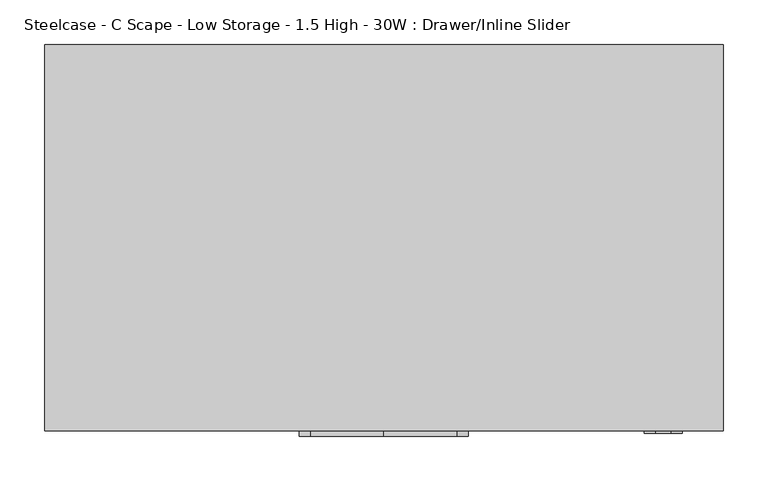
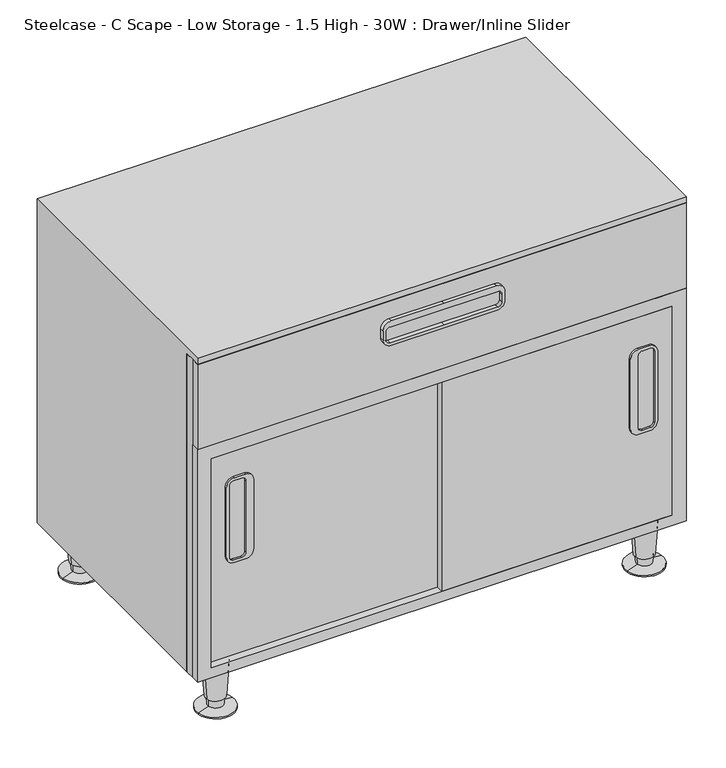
"""IFC4 building model written with IfcOpenShell, lengths in millimetres: furniture geometry, Steelcase - C Scape - Low Storage - 1.5 High - 30W : Drawer/Inline Slider."""

from ifc_helpers import new_model, si_unit, point, frame, frame_2d, origin, place, context, project, spatial, polyline, circle_curve, trimmed, segment, composite_curve, outline, extrude, faceted_brep, source, transform, mapped, element, save
from ifc_brep_helpers import plane_surface, cylinder_surface, revolved_surface, advanced_brep


def steelcase_c_scape_low_storage_1_5_high_30w_drawer_inline_58b6e77f(model_context):
    return source(origin(), model_context, "Body", "SolidModel", [
        extrude(outline(composite_curve([segment(trimmed(circle_curve(frame_2d((373.5963095, 685.0136914)), 12.7015503), [point((386.2978598, 685.0136914))], [point((373.5963095, 672.3121411))], False, "CARTESIAN"), True, "CONTINUOUS"), segment(polyline([(373.5963095, 672.3121411), (259.2993979, 672.3121411)]), True, "CONTINUOUS"), segment(trimmed(circle_curve(frame_2d((259.2993979, 685.0136914)), 12.7015503), [point((259.2993979, 672.3121411))], [point((246.5978477, 685.0136914))], False, "CARTESIAN"), True, "CONTINUOUS"), segment(polyline([(246.5978477, 685.0136914), (246.5978477, 701.902577)]), True, "CONTINUOUS"), segment(trimmed(circle_curve(frame_2d((259.2978537, 701.902577)), 12.7000061), [point((246.5978477, 701.902577))], [point((259.2978537, 714.602583))], False, "CARTESIAN"), True, "CONTINUOUS"), segment(polyline([(259.2978537, 714.602583), (373.6009603, 714.602583)]), True, "CONTINUOUS"), segment(trimmed(circle_curve(frame_2d((373.6009603, 701.9056836)), 12.6968994), [point((373.6009603, 714.602583))], [point((386.2978598, 701.9056836))], False, "CARTESIAN"), True, "CONTINUOUS"), segment(polyline([(386.2978598, 701.9056836), (386.2978598, 685.0136914)]), True, "CONTINUOUS")], self_intersect=False), holes=[composite_curve([segment(trimmed(circle_curve(frame_2d((257.7496016, 703.426521)), 6.3531006), [point((257.7496016, 709.7796216))], [point((251.396501, 703.426521))], True, "CARTESIAN"), True, "CONTINUOUS"), segment(polyline([(251.396501, 703.426521), (251.396501, 690.7296216)]), True, "CONTINUOUS"), segment(trimmed(circle_curve(frame_2d((257.7496016, 690.7296216)), 6.3531006), [point((251.396501, 690.7296216))], [point((257.7496016, 684.376521))], True, "CARTESIAN"), True, "CONTINUOUS"), segment(polyline([(257.7496016, 684.376521), (375.0913854, 684.376521)]), True, "CONTINUOUS"), segment(trimmed(circle_curve(frame_2d((375.0913854, 690.7296216)), 6.3531006), [point((375.0913854, 684.376521))], [point((381.444486, 690.7296216))], True, "CARTESIAN"), True, "CONTINUOUS"), segment(polyline([(381.444486, 690.7296216), (381.444486, 703.426521)]), True, "CONTINUOUS"), segment(trimmed(circle_curve(frame_2d((375.0913854, 703.426521)), 6.3531006), [point((381.444486, 703.426521))], [point((375.0913854, 709.7796216))], True, "CARTESIAN"), True, "CONTINUOUS"), segment(polyline([(375.0913854, 709.7796216), (257.7496016, 709.7796216)]), True, "CONTINUOUS")], self_intersect=False)]), frame((0.0, -436.1182586, 0.0), z_axis=(0.0, 1.0, 0.0), x_axis=(0.0, 0.0, 1.0)), (0.0, 0.0, 1.0), 3.0482586),
        extrude(outline(composite_curve([segment(polyline([(386.2978598, 79.2484961), (386.2978598, 62.3565039)]), True, "CONTINUOUS"), segment(trimmed(circle_curve(frame_2d((373.6009603, 62.3565039)), 12.6968994), [point((386.2978598, 62.3565039))], [point((373.6009603, 49.6596045))], False, "CARTESIAN"), True, "CONTINUOUS"), segment(polyline([(373.6009603, 49.6596045), (259.2978537, 49.6596045)]), True, "CONTINUOUS"), segment(trimmed(circle_curve(frame_2d((259.2978537, 62.3596105)), 12.7000061), [point((259.2978537, 49.6596045))], [point((246.5978477, 62.3596105))], False, "CARTESIAN"), True, "CONTINUOUS"), segment(polyline([(246.5978477, 62.3596105), (246.5978477, 79.2484961)]), True, "CONTINUOUS"), segment(trimmed(circle_curve(frame_2d((259.2993979, 79.2484961)), 12.7015503), [point((246.5978477, 79.2484961))], [point((259.2993979, 91.9500464))], False, "CARTESIAN"), True, "CONTINUOUS"), segment(polyline([(259.2993979, 91.9500464), (373.5963095, 91.9500464)]), True, "CONTINUOUS"), segment(trimmed(circle_curve(frame_2d((373.5963095, 79.2484961)), 12.7015503), [point((373.5963095, 91.9500464))], [point((386.2978598, 79.2484961))], False, "CARTESIAN"), True, "CONTINUOUS")], self_intersect=False), holes=[composite_curve([segment(polyline([(257.7496016, 54.4825659), (375.0913854, 54.4825659)]), True, "CONTINUOUS"), segment(trimmed(circle_curve(frame_2d((375.0913854, 60.8356665)), 6.3531006), [point((375.0913854, 54.4825659))], [point((381.444486, 60.8356665))], True, "CARTESIAN"), True, "CONTINUOUS"), segment(polyline([(381.444486, 60.8356665), (381.444486, 73.5325659)]), True, "CONTINUOUS"), segment(trimmed(circle_curve(frame_2d((375.0913854, 73.5325659)), 6.3531006), [point((381.444486, 73.5325659))], [point((375.0913854, 79.8856665))], True, "CARTESIAN"), True, "CONTINUOUS"), segment(polyline([(375.0913854, 79.8856665), (257.7496016, 79.8856665)]), True, "CONTINUOUS"), segment(trimmed(circle_curve(frame_2d((257.7496016, 73.5325659)), 6.3531006), [point((257.7496016, 79.8856665))], [point((251.396501, 73.5325659))], True, "CARTESIAN"), True, "CONTINUOUS"), segment(polyline([(251.396501, 73.5325659), (251.396501, 60.8356665)]), True, "CONTINUOUS"), segment(trimmed(circle_curve(frame_2d((257.7496016, 60.8356665)), 6.3531006), [point((251.396501, 60.8356665))], [point((257.7496016, 54.4825659))], True, "CARTESIAN"), True, "CONTINUOUS")], self_intersect=False)]), frame((0.0, -424.7213475, 0.0), z_axis=(0.0, 1.0, 0.0), x_axis=(0.0, 0.0, 1.0)), (0.0, 0.0, 1.0), 3.0770066),
        extrude(outline(polyline([(458.7875121, 0.0), (76.2, 0.0), (76.2, 760.73), (458.7875121, 760.73), (458.7875121, 0.0)]), holes=[polyline([(436.8419, 21.3382324), (436.8419, 738.7617285), (92.7100024, 738.7617285), (92.7100024, 21.3382324), (436.8419, 21.3382324)])]), frame((0.0, -433.07, 0.0), z_axis=(0.0, 1.0, 0.0), x_axis=(0.0, 0.0, 1.0)), (0.0, 0.0, 1.0), 13.7159457),
        extrude(outline(polyline([(599.4499291, 0.0), (76.2, 0.0), (76.2, 760.73), (599.4499291, 760.73), (599.4499291, 320.0585382), (599.4499291, 0.0)]), holes=[polyline([(458.7875121, 21.3382324), (582.9399291, 21.3382324), (582.9399291, 738.7617285), (458.7875121, 738.7617285), (458.7875121, 21.3382324)]), polyline([(436.841904, 21.3256814), (436.841904, 738.7617285), (92.7100024, 738.7617285), (92.7100024, 21.3256814), (436.841904, 21.3256814)])]), frame((0.0, -419.3540543, 0.0), z_axis=(0.0, 1.0, 0.0), x_axis=(0.0, 0.0, 1.0)), (0.0, 0.0, 1.0), 14.9860039),
        extrude(outline(composite_curve([segment(trimmed(circle_curve(frame_2d((558.1749291, 297.8147442)), 12.7), [point((570.8749291, 297.8147442))], [point((558.1749291, 285.1147442))], False, "CARTESIAN"), True, "CONTINUOUS"), segment(polyline([(558.1749291, 285.1147442), (543.5699582, 285.1147442)]), True, "CONTINUOUS"), segment(trimmed(circle_curve(frame_2d((543.5699582, 297.8147442)), 12.7), [point((543.5699582, 285.1147442))], [point((530.8699582, 297.8147442))], False, "CARTESIAN"), True, "CONTINUOUS"), segment(polyline([(530.8699582, 297.8147442), (530.8699582, 380.0475), (530.8699582, 462.2802558)]), True, "CONTINUOUS"), segment(trimmed(circle_curve(frame_2d((543.5699582, 462.2802558)), 12.7), [point((530.8699582, 462.2802558))], [point((543.5699582, 474.9802558))], False, "CARTESIAN"), True, "CONTINUOUS"), segment(polyline([(543.5699582, 474.9802558), (558.1749291, 474.9802558)]), True, "CONTINUOUS"), segment(trimmed(circle_curve(frame_2d((558.1749291, 462.2802558)), 12.7), [point((558.1749291, 474.9802558))], [point((570.8749291, 462.2802558))], False, "CARTESIAN"), True, "CONTINUOUS"), segment(polyline([(570.8749291, 462.2802558), (570.8749291, 380.0475), (570.8749291, 297.8147442)]), True, "CONTINUOUS")], self_intersect=False), holes=[composite_curve([segment(trimmed(circle_curve(frame_2d((554.7459476, 296.2923565)), 6.35), [point((554.7459476, 289.9423565))], [point((561.0959476, 296.2923565))], True, "CARTESIAN"), True, "CONTINUOUS"), segment(polyline([(561.0959476, 296.2923565), (561.0959476, 380.0475), (561.0959476, 463.8026435)]), True, "CONTINUOUS"), segment(trimmed(circle_curve(frame_2d((554.7459476, 463.8026435)), 6.35), [point((561.0959476, 463.8026435))], [point((554.7459476, 470.1526435))], True, "CARTESIAN"), True, "CONTINUOUS"), segment(polyline([(554.7459476, 470.1526435), (542.0459354, 470.1526435)]), True, "CONTINUOUS"), segment(trimmed(circle_curve(frame_2d((542.0459354, 463.8026435)), 6.35), [point((542.0459354, 470.1526435))], [point((535.6959354, 463.8026435))], True, "CARTESIAN"), True, "CONTINUOUS"), segment(polyline([(535.6959354, 463.8026435), (535.6959354, 380.0475), (535.6959354, 296.2923565)]), True, "CONTINUOUS"), segment(trimmed(circle_curve(frame_2d((542.0459354, 296.2923565)), 6.35), [point((535.6959354, 296.2923565))], [point((542.0459354, 289.9423565))], True, "CARTESIAN"), True, "CONTINUOUS"), segment(polyline([(542.0459354, 289.9423565), (554.7459476, 289.9423565)]), True, "CONTINUOUS")], self_intersect=False)]), frame((0.0, -439.42, 0.0), z_axis=(0.0, 1.0, 0.0), x_axis=(0.0, 0.0, 1.0)), (0.0, 0.0, 1.0), 6.35),
        advanced_brep(
        [(65.5422821, -397.1702762, 76.2), (27.8805432, -402.9325174, 76.2), (46.7114126, -400.0513968, 76.2), (61.5919341, -397.774679, 19.05), (31.8308912, -402.3281146, 19.05), (59.1623471, -398.1464055, 19.05), (34.2604781, -401.9563882, 19.05), (58.4735776, -398.2517871, 5.7545598), (34.9492476, -401.8510065, 5.7545598), (75.8224611, -395.5974102, 2.5119506), (17.6003641, -404.5053834, 2.5119506), (75.8224611, -395.5974102, 0.0), (17.6003641, -404.5053834, 0.0), (46.7114126, -400.0513968, 0.0)],
        [
            (0, 1, circle_curve(frame((46.7114126, -400.0513968, 76.2), z_axis=(0.0, 0.0, 1.0), x_axis=(0.0, -1.0, 0.0)), 19.05)),
            (1, 2),
            (2, 0),
            (1, 0, circle_curve(frame((46.7114126, -400.0513968, 76.2), z_axis=(0.0, 0.0, 1.0), x_axis=(0.0, -1.0, 0.0)), 19.05)),
            (3, 4, circle_curve(frame((46.7114126, -400.0513968, 19.05), z_axis=(0.0, 0.0, 1.0), x_axis=(0.0, -1.0, 0.0)), 15.0536827)),
            (4, 1),
            (0, 3),
            (4, 3, circle_curve(frame((46.7114126, -400.0513968, 19.05), z_axis=(0.0, 0.0, 1.0), x_axis=(0.0, -1.0, 0.0)), 15.0536827)),
            (5, 6, circle_curve(frame((46.7114126, -400.0513968, 19.05), z_axis=(0.0, 0.0, 1.0), x_axis=(0.0, -1.0, 0.0)), 12.5958232)),
            (6, 4),
            (3, 5),
            (6, 5, circle_curve(frame((46.7114126, -400.0513968, 19.05), z_axis=(0.0, 0.0, 1.0), x_axis=(0.0, -1.0, 0.0)), 12.5958232)),
            (7, 8, circle_curve(frame((46.7114126, -400.0513968, 5.7545598), z_axis=(0.0, 0.0, 1.0), x_axis=(0.0, -1.0, 0.0)), 11.8990387)),
            (8, 6),
            (5, 7),
            (8, 7, circle_curve(frame((46.7114126, -400.0513968, 5.7545598), z_axis=(0.0, 0.0, 1.0), x_axis=(0.0, -1.0, 0.0)), 11.8990387)),
            (9, 10, circle_curve(frame((46.7114126, -400.0513968, 2.5119506), z_axis=(0.0, 0.0, 1.0), x_axis=(0.0, -1.0, 0.0)), 29.4498071)),
            (10, 8),
            (7, 9),
            (10, 9, circle_curve(frame((46.7114126, -400.0513968, 2.5119506), z_axis=(0.0, 0.0, 1.0), x_axis=(0.0, -1.0, 0.0)), 29.4498071)),
            (11, 12, circle_curve(frame((46.7114126, -400.0513968, 0.0), z_axis=(0.0, 0.0, 1.0), x_axis=(0.0, -1.0, 0.0)), 29.4498071)),
            (12, 10),
            (9, 11),
            (12, 11, circle_curve(frame((46.7114126, -400.0513968, 0.0), z_axis=(0.0, 0.0, 1.0), x_axis=(0.0, -1.0, 0.0)), 29.4498071)),
            (13, 12),
            (11, 13),
        ],
        [
            plane_surface(frame((46.7114126, -400.0513968, 76.2), z_axis=(0.0, 0.0, 1.0), x_axis=(0.0, -1.0, 0.0))),
            revolved_surface(polyline([(46.7114126, -419.1013968, 76.2), (46.7114126, -415.1050795, 19.05)]), (46.7114126, -400.0513968, 25.4), (0.0, 0.0, -1.0)),
            plane_surface(frame((46.7114126, -400.0513968, 19.05), z_axis=(0.0, 0.0, -1.0), x_axis=(0.0, -1.0, 0.0))),
            revolved_surface(polyline([(46.7114126, -412.64722, 19.05), (46.7114126, -411.9504355, 5.7545598)]), (46.7114126, -400.0513968, 25.4), (0.0, 0.0, -1.0)),
            revolved_surface(polyline([(46.7114126, -411.9504355, 5.7545598), (46.7114126, -429.5012039, 2.5119506)]), (46.7114126, -400.0513968, 25.4), (0.0, 0.0, -1.0)),
            cylinder_surface(frame((46.7114126, -400.0513968, 25.4), z_axis=(0.0, 0.0, -1.0), x_axis=(0.0, -1.0, 0.0)), 29.4498071),
            plane_surface(frame((46.7114126, -400.0513968, 0.0), z_axis=(0.0, 0.0, -1.0), x_axis=(0.0, -1.0, 0.0))),
        ],
        [
            (0, [[1, 2, 3]]),
            (0, [[4, -3, -2]]),
            (1, [[5, 6, -1, 7]]),
            (1, [[8, -7, -4, -6]]),
            (2, [[9, 10, -5, 11]]),
            (2, [[12, -11, -8, -10]]),
            (3, [[13, 14, -9, 15]]),
            (3, [[16, -15, -12, -14]]),
            (4, [[17, 18, -13, 19]]),
            (4, [[20, -19, -16, -18]]),
            (5, [[21, 22, -17, 23]]),
            (5, [[24, -23, -20, -22]]),
            (6, [[25, -21, 26]]),
            (6, [[-26, -24, -25]]),
        ],
    ),
        advanced_brep(
        [(733.4598695, -397.1702762, 76.2), (695.7981305, -402.9325174, 76.2), (714.629, -400.0513968, 76.2), (729.5095214, -397.774679, 19.05), (699.7484786, -402.3281146, 19.05), (727.0799345, -398.1464055, 19.05), (702.1780655, -401.9563882, 19.05), (726.391165, -398.2517871, 5.7545598), (702.866835, -401.8510065, 5.7545598), (743.7400485, -395.5974102, 2.5119506), (685.5179515, -404.5053834, 2.5119506), (743.7400485, -395.5974102, 0.0), (685.5179515, -404.5053834, 0.0), (714.629, -400.0513968, 0.0)],
        [
            (0, 1, circle_curve(frame((714.629, -400.0513968, 76.2), z_axis=(0.0, 0.0, 1.0), x_axis=(0.0, -1.0, 0.0)), 19.05)),
            (1, 2),
            (2, 0),
            (1, 0, circle_curve(frame((714.629, -400.0513968, 76.2), z_axis=(0.0, 0.0, 1.0), x_axis=(0.0, -1.0, 0.0)), 19.05)),
            (3, 4, circle_curve(frame((714.629, -400.0513968, 19.05), z_axis=(0.0, 0.0, 1.0), x_axis=(0.0, -1.0, 0.0)), 15.0536827)),
            (4, 1),
            (0, 3),
            (4, 3, circle_curve(frame((714.629, -400.0513968, 19.05), z_axis=(0.0, 0.0, 1.0), x_axis=(0.0, -1.0, 0.0)), 15.0536827)),
            (5, 6, circle_curve(frame((714.629, -400.0513968, 19.05), z_axis=(0.0, 0.0, 1.0), x_axis=(0.0, -1.0, 0.0)), 12.5958232)),
            (6, 4),
            (3, 5),
            (6, 5, circle_curve(frame((714.629, -400.0513968, 19.05), z_axis=(0.0, 0.0, 1.0), x_axis=(0.0, -1.0, 0.0)), 12.5958232)),
            (7, 8, circle_curve(frame((714.629, -400.0513968, 5.7545598), z_axis=(0.0, 0.0, 1.0), x_axis=(0.0, -1.0, 0.0)), 11.8990387)),
            (8, 6),
            (5, 7),
            (8, 7, circle_curve(frame((714.629, -400.0513968, 5.7545598), z_axis=(0.0, 0.0, 1.0), x_axis=(0.0, -1.0, 0.0)), 11.8990387)),
            (9, 10, circle_curve(frame((714.629, -400.0513968, 2.5119506), z_axis=(0.0, 0.0, 1.0), x_axis=(0.0, -1.0, 0.0)), 29.4498071)),
            (10, 8),
            (7, 9),
            (10, 9, circle_curve(frame((714.629, -400.0513968, 2.5119506), z_axis=(0.0, 0.0, 1.0), x_axis=(0.0, -1.0, 0.0)), 29.4498071)),
            (11, 12, circle_curve(frame((714.629, -400.0513968, 0.0), z_axis=(0.0, 0.0, 1.0), x_axis=(0.0, -1.0, 0.0)), 29.4498071)),
            (12, 10),
            (9, 11),
            (12, 11, circle_curve(frame((714.629, -400.0513968, 0.0), z_axis=(0.0, 0.0, 1.0), x_axis=(0.0, -1.0, 0.0)), 29.4498071)),
            (13, 12),
            (11, 13),
        ],
        [
            plane_surface(frame((714.629, -400.0513968, 76.2), z_axis=(0.0, 0.0, 1.0), x_axis=(0.0, -1.0, 0.0))),
            revolved_surface(polyline([(714.629, -419.1013968, 76.2), (714.629, -415.1050795, 19.05)]), (714.629, -400.0513968, 25.4), (0.0, 0.0, -1.0)),
            plane_surface(frame((714.629, -400.0513968, 19.05), z_axis=(0.0, 0.0, -1.0), x_axis=(0.0, -1.0, 0.0))),
            revolved_surface(polyline([(714.629, -412.64722, 19.05), (714.629, -411.9504355, 5.7545598)]), (714.629, -400.0513968, 25.4), (0.0, 0.0, -1.0)),
            revolved_surface(polyline([(714.629, -411.9504355, 5.7545598), (714.629, -429.5012039, 2.5119506)]), (714.629, -400.0513968, 25.4), (0.0, 0.0, -1.0)),
            cylinder_surface(frame((714.629, -400.0513968, 25.4), z_axis=(0.0, 0.0, -1.0), x_axis=(0.0, -1.0, 0.0)), 29.4498071),
            plane_surface(frame((714.629, -400.0513968, 0.0), z_axis=(0.0, 0.0, -1.0), x_axis=(0.0, -1.0, 0.0))),
        ],
        [
            (0, [[1, 2, 3]]),
            (0, [[4, -3, -2]]),
            (1, [[5, 6, -1, 7]]),
            (1, [[8, -7, -4, -6]]),
            (2, [[9, 10, -5, 11]]),
            (2, [[12, -11, -8, -10]]),
            (3, [[13, 14, -9, 15]]),
            (3, [[16, -15, -12, -14]]),
            (4, [[17, 18, -13, 19]]),
            (4, [[20, -19, -16, -18]]),
            (5, [[21, 22, -17, 23]]),
            (5, [[24, -23, -20, -22]]),
            (6, [[25, -21, 26]]),
            (6, [[-26, -24, -25]]),
        ],
    ),
        advanced_brep(
        [(733.4598695, -31.5218435, 76.2), (695.7981305, -37.2840847, 76.2), (714.629, -34.4029641, 76.2), (729.5095214, -32.1262463, 19.05), (699.7484786, -36.6796819, 19.05), (727.0799345, -32.4979728, 19.05), (702.1780655, -36.3079555, 19.05), (726.391165, -32.6033544, 5.7545598), (702.866835, -36.2025738, 5.7545598), (743.7400485, -29.9489775, 2.5119506), (685.5179515, -38.8569507, 2.5119506), (743.7400485, -29.9489775, 0.0), (685.5179515, -38.8569507, 0.0), (714.629, -34.4029641, 0.0)],
        [
            (0, 1, circle_curve(frame((714.629, -34.4029641, 76.2), z_axis=(0.0, 0.0, 1.0), x_axis=(0.0, -1.0, 0.0)), 19.05)),
            (1, 2),
            (2, 0),
            (1, 0, circle_curve(frame((714.629, -34.4029641, 76.2), z_axis=(0.0, 0.0, 1.0), x_axis=(0.0, -1.0, 0.0)), 19.05)),
            (3, 4, circle_curve(frame((714.629, -34.4029641, 19.05), z_axis=(0.0, 0.0, 1.0), x_axis=(0.0, -1.0, 0.0)), 15.0536827)),
            (4, 1),
            (0, 3),
            (4, 3, circle_curve(frame((714.629, -34.4029641, 19.05), z_axis=(0.0, 0.0, 1.0), x_axis=(0.0, -1.0, 0.0)), 15.0536827)),
            (5, 6, circle_curve(frame((714.629, -34.4029641, 19.05), z_axis=(0.0, 0.0, 1.0), x_axis=(0.0, -1.0, 0.0)), 12.5958232)),
            (6, 4),
            (3, 5),
            (6, 5, circle_curve(frame((714.629, -34.4029641, 19.05), z_axis=(0.0, 0.0, 1.0), x_axis=(0.0, -1.0, 0.0)), 12.5958232)),
            (7, 8, circle_curve(frame((714.629, -34.4029641, 5.7545598), z_axis=(0.0, 0.0, 1.0), x_axis=(0.0, -1.0, 0.0)), 11.8990387)),
            (8, 6),
            (5, 7),
            (8, 7, circle_curve(frame((714.629, -34.4029641, 5.7545598), z_axis=(0.0, 0.0, 1.0), x_axis=(0.0, -1.0, 0.0)), 11.8990387)),
            (9, 10, circle_curve(frame((714.629, -34.4029641, 2.5119506), z_axis=(0.0, 0.0, 1.0), x_axis=(0.0, -1.0, 0.0)), 29.4498071)),
            (10, 8),
            (7, 9),
            (10, 9, circle_curve(frame((714.629, -34.4029641, 2.5119506), z_axis=(0.0, 0.0, 1.0), x_axis=(0.0, -1.0, 0.0)), 29.4498071)),
            (11, 12, circle_curve(frame((714.629, -34.4029641, 0.0), z_axis=(0.0, 0.0, 1.0), x_axis=(0.0, -1.0, 0.0)), 29.4498071)),
            (12, 10),
            (9, 11),
            (12, 11, circle_curve(frame((714.629, -34.4029641, 0.0), z_axis=(0.0, 0.0, 1.0), x_axis=(0.0, -1.0, 0.0)), 29.4498071)),
            (13, 12),
            (11, 13),
        ],
        [
            plane_surface(frame((714.629, -34.4029641, 76.2), z_axis=(0.0, 0.0, 1.0), x_axis=(0.0, -1.0, 0.0))),
            revolved_surface(polyline([(714.629, -53.4529641, 76.2), (714.629, -49.4566468, 19.05)]), (714.629, -34.4029641, 25.4), (0.0, 0.0, -1.0)),
            plane_surface(frame((714.629, -34.4029641, 19.05), z_axis=(0.0, 0.0, -1.0), x_axis=(0.0, -1.0, 0.0))),
            revolved_surface(polyline([(714.629, -46.9987873, 19.05), (714.629, -46.3020028, 5.7545598)]), (714.629, -34.4029641, 25.4), (0.0, 0.0, -1.0)),
            revolved_surface(polyline([(714.629, -46.3020028, 5.7545598), (714.629, -63.8527712, 2.5119506)]), (714.629, -34.4029641, 25.4), (0.0, 0.0, -1.0)),
            cylinder_surface(frame((714.629, -34.4029641, 25.4), z_axis=(0.0, 0.0, -1.0), x_axis=(0.0, -1.0, 0.0)), 29.4498071),
            plane_surface(frame((714.629, -34.4029641, 0.0), z_axis=(0.0, 0.0, -1.0), x_axis=(0.0, -1.0, 0.0))),
        ],
        [
            (0, [[1, 2, 3]]),
            (0, [[4, -3, -2]]),
            (1, [[5, 6, -1, 7]]),
            (1, [[8, -7, -4, -6]]),
            (2, [[9, 10, -5, 11]]),
            (2, [[12, -11, -8, -10]]),
            (3, [[13, 14, -9, 15]]),
            (3, [[16, -15, -12, -14]]),
            (4, [[17, 18, -13, 19]]),
            (4, [[20, -19, -16, -18]]),
            (5, [[21, 22, -17, 23]]),
            (5, [[24, -23, -20, -22]]),
            (6, [[25, -21, 26]]),
            (6, [[-26, -24, -25]]),
        ],
    ),
        advanced_brep(
        [(65.5422821, -31.5218435, 76.2), (27.8805432, -37.2840847, 76.2), (46.7114126, -34.4029641, 76.2), (61.5919341, -32.1262463, 19.05), (31.8308912, -36.6796819, 19.05), (59.1623471, -32.4979728, 19.05), (34.2604781, -36.3079555, 19.05), (58.4735776, -32.6033544, 5.7545598), (34.9492476, -36.2025738, 5.7545598), (75.8224611, -29.9489775, 2.5119506), (17.6003641, -38.8569507, 2.5119506), (75.8224611, -29.9489775, 0.0), (17.6003641, -38.8569507, 0.0), (46.7114126, -34.4029641, 0.0)],
        [
            (0, 1, circle_curve(frame((46.7114126, -34.4029641, 76.2), z_axis=(0.0, 0.0, 1.0), x_axis=(0.0, -1.0, 0.0)), 19.05)),
            (1, 2),
            (2, 0),
            (1, 0, circle_curve(frame((46.7114126, -34.4029641, 76.2), z_axis=(0.0, 0.0, 1.0), x_axis=(0.0, -1.0, 0.0)), 19.05)),
            (3, 4, circle_curve(frame((46.7114126, -34.4029641, 19.05), z_axis=(0.0, 0.0, 1.0), x_axis=(0.0, -1.0, 0.0)), 15.0536827)),
            (4, 1),
            (0, 3),
            (4, 3, circle_curve(frame((46.7114126, -34.4029641, 19.05), z_axis=(0.0, 0.0, 1.0), x_axis=(0.0, -1.0, 0.0)), 15.0536827)),
            (5, 6, circle_curve(frame((46.7114126, -34.4029641, 19.05), z_axis=(0.0, 0.0, 1.0), x_axis=(0.0, -1.0, 0.0)), 12.5958232)),
            (6, 4),
            (3, 5),
            (6, 5, circle_curve(frame((46.7114126, -34.4029641, 19.05), z_axis=(0.0, 0.0, 1.0), x_axis=(0.0, -1.0, 0.0)), 12.5958232)),
            (7, 8, circle_curve(frame((46.7114126, -34.4029641, 5.7545598), z_axis=(0.0, 0.0, 1.0), x_axis=(0.0, -1.0, 0.0)), 11.8990387)),
            (8, 6),
            (5, 7),
            (8, 7, circle_curve(frame((46.7114126, -34.4029641, 5.7545598), z_axis=(0.0, 0.0, 1.0), x_axis=(0.0, -1.0, 0.0)), 11.8990387)),
            (9, 10, circle_curve(frame((46.7114126, -34.4029641, 2.5119506), z_axis=(0.0, 0.0, 1.0), x_axis=(0.0, -1.0, 0.0)), 29.4498071)),
            (10, 8),
            (7, 9),
            (10, 9, circle_curve(frame((46.7114126, -34.4029641, 2.5119506), z_axis=(0.0, 0.0, 1.0), x_axis=(0.0, -1.0, 0.0)), 29.4498071)),
            (11, 12, circle_curve(frame((46.7114126, -34.4029641, 0.0), z_axis=(0.0, 0.0, 1.0), x_axis=(0.0, -1.0, 0.0)), 29.4498071)),
            (12, 10),
            (9, 11),
            (12, 11, circle_curve(frame((46.7114126, -34.4029641, 0.0), z_axis=(0.0, 0.0, 1.0), x_axis=(0.0, -1.0, 0.0)), 29.4498071)),
            (13, 12),
            (11, 13),
        ],
        [
            plane_surface(frame((46.7114126, -34.4029641, 76.2), z_axis=(0.0, 0.0, 1.0), x_axis=(0.0, -1.0, 0.0))),
            revolved_surface(polyline([(46.7114126, -53.4529641, 76.2), (46.7114126, -49.4566468, 19.05)]), (46.7114126, -34.4029641, 25.4), (0.0, 0.0, -1.0)),
            plane_surface(frame((46.7114126, -34.4029641, 19.05), z_axis=(0.0, 0.0, -1.0), x_axis=(0.0, -1.0, 0.0))),
            revolved_surface(polyline([(46.7114126, -46.9987873, 19.05), (46.7114126, -46.3020028, 5.7545598)]), (46.7114126, -34.4029641, 25.4), (0.0, 0.0, -1.0)),
            revolved_surface(polyline([(46.7114126, -46.3020028, 5.7545598), (46.7114126, -63.8527712, 2.5119506)]), (46.7114126, -34.4029641, 25.4), (0.0, 0.0, -1.0)),
            cylinder_surface(frame((46.7114126, -34.4029641, 25.4), z_axis=(0.0, 0.0, -1.0), x_axis=(0.0, -1.0, 0.0)), 29.4498071),
            plane_surface(frame((46.7114126, -34.4029641, 0.0), z_axis=(0.0, 0.0, -1.0), x_axis=(0.0, -1.0, 0.0))),
        ],
        [
            (0, [[1, 2, 3]]),
            (0, [[4, -3, -2]]),
            (1, [[5, 6, -1, 7]]),
            (1, [[8, -7, -4, -6]]),
            (2, [[9, 10, -5, 11]]),
            (2, [[12, -11, -8, -10]]),
            (3, [[13, 14, -9, 15]]),
            (3, [[16, -15, -12, -14]]),
            (4, [[17, 18, -13, 19]]),
            (4, [[20, -19, -16, -18]]),
            (5, [[21, 22, -17, 23]]),
            (5, [[24, -23, -20, -22]]),
            (6, [[25, -21, 26]]),
            (6, [[-26, -24, -25]]),
        ],
    ),
        extrude(outline(polyline([(760.73, -419.3540543), (760.73, -433.07), (0.0, -433.07), (0.0, -419.3540543), (760.73, -419.3540543)])), frame((0.0, 0.0, 458.7875121), z_axis=(0.0, 0.0, 1.0), x_axis=(1.0, 0.0, 0.0)), (0.0, 0.0, 1.0), 140.662417),
        faceted_brep([(0.0, 0.0, 609.6), (760.73, 0.0, 609.6), (760.73, 0.0, 76.2), (0.0, 0.0, 76.2), (0.0, -433.07, 609.6), (0.0, -404.3680504, 76.2), (0.0, -404.3680504, 599.4499291), (0.0, -433.07, 599.4499291), (21.3382324, -404.3680504, 599.4499291), (760.73, -404.3680504, 76.2), (760.73, -404.3680504, 599.4499291), (738.7617285, -404.3680504, 599.4499291), (738.7617285, -404.3680504, 458.7875121), (21.3382324, -404.3680504, 458.7875121), (738.7617285, -404.3680504, 450.8499879), (738.7617285, -404.3680504, 92.7100024), (21.3382324, -404.3680504, 92.7100024), (21.3382324, -404.3680504, 450.8499879), (21.3382324, -9.525, 599.4499291), (21.3382324, -9.525, 458.7875121), (21.3382324, -9.525, 92.7100024), (21.3382324, -9.525, 450.8499879), (738.7617285, -9.525, 599.4499291), (738.7617285, -9.525, 458.7875121), (738.7617285, -9.525, 92.7100024), (738.7617285, -9.525, 450.8499879), (760.73, -433.07, 609.6), (760.73, -433.07, 599.4499291)], [[[0, 1, 2, 3]], [[4, 0, 3, 5, 6, 7]], [[8, 6, 5, 9, 10, 11, 12, 13], [14, 15, 16, 17]], [[18, 8, 13, 19]], [[17, 16, 20, 21]], [[22, 18, 19, 23]], [[21, 20, 24, 25]], [[11, 22, 23, 12]], [[25, 24, 15, 14]], [[2, 1, 26, 27, 10, 9]], [[1, 0, 4, 26]], [[27, 7, 6, 8, 18, 22, 11, 10]], [[26, 4, 7, 27]], [[13, 12, 23, 19]], [[14, 17, 21, 25]], [[16, 15, 24, 20]], [[2, 9, 5, 3]]]),
        extrude(outline(polyline([(380.0475, -421.6443408), (738.7617285, -421.6443408), (738.7617285, -433.07), (380.0475, -433.07), (380.0475, -421.6443408)])), frame((0.0, 0.0, 92.7100024), z_axis=(0.0, 0.0, 1.0), x_axis=(1.0, 0.0, 0.0)), (0.0, 0.0, 1.0), 344.1318976),
        extrude(outline(polyline([(380.0475, -415.2912402), (380.0475, -421.6443408), (21.3382324, -421.6443408), (21.3382324, -415.2912402), (380.0475, -415.2912402)])), frame((0.0, 0.0, 92.7100024), z_axis=(0.0, 0.0, 1.0), x_axis=(1.0, 0.0, 0.0)), (0.0, 0.0, 1.0), 344.1318976),
    ])


if __name__ == "__main__":
    model = new_model("IFC4")
    model_context = context("Model", 3, world=origin())
    ifc_project = project(units=[si_unit("LENGTHUNIT", "METRE", prefix="MILLI")], contexts=[model_context])
    site = spatial("IfcSite", under=ifc_project)
    building = spatial("IfcBuilding", under=site)
    placement = place(None, origin())
    steelcase_c_scape_low_storage_1_5_high_30w_drawer_inline_shape = steelcase_c_scape_low_storage_1_5_high_30w_drawer_inline_58b6e77f(model_context)
    element("IfcFurniture", 1, ObjectType="Steelcase - C Scape - Low Storage - 1.5 High - 30W : Drawer/Inline Slider", at=placement, inside=building, context=model_context, shape_type="MappedRepresentation", body=[
        mapped(steelcase_c_scape_low_storage_1_5_high_30w_drawer_inline_shape, transform((0.0, 0.0, 0.0), x_axis=(1.0, 0.0, 0.0), y_axis=(0.0, 1.0, 0.0), z_axis=(0.0, 0.0, 1.0))),
    ])
    save(model, "model.ifc")
